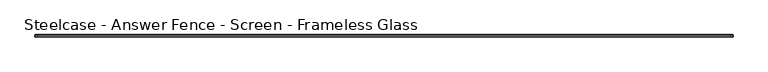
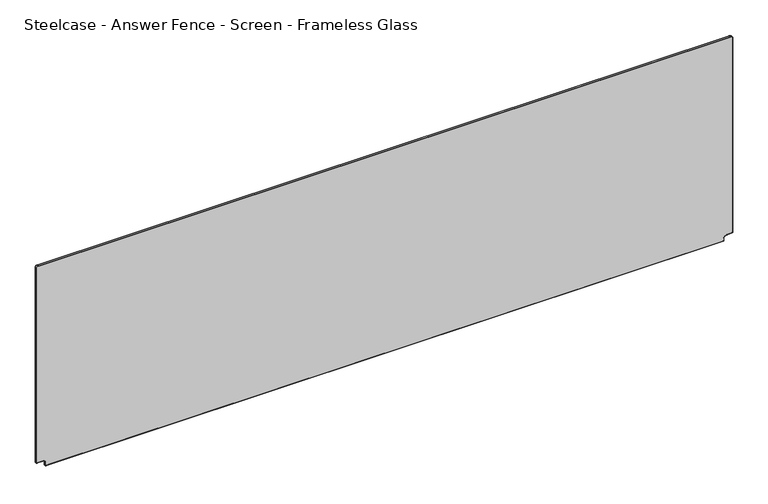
"""IFC4 building model written with IfcOpenShell, lengths in millimetres: furniture geometry, Steelcase - Answer Fence - Screen - Frameless Glass : 72W x 19.5H."""

from ifc_helpers import new_model, si_unit, point, frame, origin, place, context, project, spatial, polyline, circle_curve, ellipse_curve, trimmed, source, transform, mapped, element, save
from ifc_brep_helpers import plane_surface, cylinder_surface, revolved_surface, advanced_brep


def steelcase_answer_fence_screen_frameless_glass_b4fc2ed7(model_context):
    return source(origin(), model_context, "Body", "AdvancedBrep", [
        advanced_brep(
        [(-37.1058573, 0.0, 1236.4547231), (-32.5585153, 0.0, 1241.0020651), (1785.137377, 0.0, 1240.9797485), (1789.7058573, 0.0, 1236.4335847), (1789.6835407, 0.0, 696.7219419), (1773.9031504, 0.0, 696.7219419), (1765.5535698, 0.0, 688.3723612), (1765.5535698, 0.0, 681.6832625), (-12.9550716, 0.0, 681.6832625), (-12.9550716, 0.0, 688.4063736), (-21.2706399, 0.0, 696.7219419), (-37.0835407, 0.0, 696.7219419), (-32.5585153, -5.9942078, 1241.0018434), (-37.1056357, -5.9942078, 1236.4547231), (-37.1056357, -5.9942078, 696.7219419), (-21.2706399, -5.9942078, 696.6998469), (-12.9550716, -5.9942078, 688.4063736), (-12.9771666, -5.9942078, 681.6832625), (1765.5535698, -5.9942078, 681.6611675), (1765.5756647, -5.9942078, 688.3723612), (1773.9031504, -5.9942078, 696.7219419), (1789.6835407, -5.9942078, 696.6998469), (1789.7056357, -5.9942078, 1236.4335847), (1785.137377, -5.9942078, 1241.0018434), (-38.1106579, -1.0158976, 1236.4547231), (-32.5585153, -1.0158976, 1242.0068656), (-38.1106579, -4.9781981, 1236.4547231), (-32.5585153, -4.9781981, 1242.0068656), (-38.1106579, -1.0158976, 695.6948247), (-38.1106579, -4.9781981, 695.6948247), (-21.2706399, -1.0158976, 695.6948247), (-21.2706399, -4.9781981, 695.6948247), (-13.9821888, -1.0158976, 688.4063736), (-13.9821888, -4.9781981, 688.4063736), (-13.9821888, -1.0158976, 680.6561453), (-13.9821888, -4.9781981, 680.6561453), (1766.580687, -1.0158976, 680.6561453), (1766.580687, -4.9781981, 680.6561453), (1766.580687, -1.0158976, 688.3723612), (1766.580687, -4.9781981, 688.3723612), (1773.9031504, -1.0158976, 695.6948247), (1773.9031504, -4.9781981, 695.6948247), (1790.7106579, -1.0158976, 695.6948247), (1790.7106579, -4.9781981, 695.6948247), (1790.7106579, -1.0158976, 1236.4335847), (1790.7106579, -4.9781981, 1236.4335847), (1785.137377, -1.0158976, 1242.0068656), (1785.137377, -4.9781981, 1242.0068656)],
        [
            (0, 1, circle_curve(frame((-32.5585153, 0.0, 1236.4547231), z_axis=(0.0, 1.0, 0.0), x_axis=(0.0, 0.0, 1.0)), 4.547342)),
            (1, 2),
            (2, 3, circle_curve(frame((1785.137377, 0.0, 1236.4335847), z_axis=(0.0, 1.0, 0.0), x_axis=(1.0, 0.0, 0.0)), 4.5684803)),
            (3, 4),
            (4, 5),
            (5, 6, circle_curve(frame((1773.9031504, 0.0, 688.3723612), z_axis=(0.0, -1.0, 0.0), x_axis=(-1.0, 0.0, 0.0)), 8.3495806)),
            (6, 7),
            (7, 8),
            (8, 9),
            (9, 10, circle_curve(frame((-21.2706399, 0.0, 688.4063736), z_axis=(0.0, -1.0, 0.0), x_axis=(0.0, 0.0, 1.0)), 8.3155683)),
            (10, 11),
            (11, 0),
            (12, 13, circle_curve(frame((-32.5585153, -5.9942078, 1236.4547231), z_axis=(0.0, -1.0, 0.0), x_axis=(0.0, 0.0, 1.0)), 4.5471204)),
            (13, 14),
            (14, 15),
            (15, 16, circle_curve(frame((-21.2706399, -5.9942078, 688.4063736), z_axis=(0.0, 1.0, 0.0), x_axis=(0.0, 0.0, 1.0)), 8.3155683)),
            (16, 17),
            (17, 18),
            (18, 19),
            (19, 20, circle_curve(frame((1773.9031504, -5.9942078, 688.3723612), z_axis=(0.0, 1.0, 0.0), x_axis=(-1.0, 0.0, 0.0)), 8.3495806)),
            (20, 21),
            (21, 22),
            (22, 23, circle_curve(frame((1785.137377, -5.9942078, 1236.4335847), z_axis=(0.0, -1.0, 0.0), x_axis=(1.0, 0.0, 0.0)), 4.5682587)),
            (23, 12),
            (24, 25, circle_curve(frame((-32.5585153, -1.0158976, 1236.4547231), z_axis=(0.0, 1.0, 0.0), x_axis=(0.0, 0.0, 1.0)), 5.5521426)),
            (25, 1, circle_curve(frame((-32.5585153, -1.0158976, 1240.9909068), z_axis=(-1.0, 0.0, 0.0), x_axis=(0.0, 0.0, -1.0)), 1.0159589)),
            (0, 24, circle_curve(frame((-37.094699, -1.0158976, 1236.4547231), z_axis=(0.0, 0.0, 1.0), x_axis=(1.0, 0.0, 0.0)), 1.0159589)),
            (24, 26),
            (26, 27, circle_curve(frame((-32.5585153, -4.9781981, 1236.4547231), z_axis=(0.0, 1.0, 0.0), x_axis=(0.0, 0.0, 1.0)), 5.5521426)),
            (27, 25),
            (26, 13, circle_curve(frame((-37.0945882, -4.9781981, 1236.4547231), z_axis=(0.0, 0.0, 1.0), x_axis=(1.0, 0.0, 0.0)), 1.0160697)),
            (12, 27, circle_curve(frame((-32.5585153, -4.9781981, 1240.990796), z_axis=(-1.0, 0.0, 0.0), x_axis=(0.0, 0.0, -1.0)), 1.0160697)),
            (11, 28, ellipse_curve(frame((-37.094699, -1.0158976, 696.7107836), z_axis=(-0.7071067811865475, 0.0, 0.7071067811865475), x_axis=(0.7071067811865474, 0.0, 0.7071067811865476)), 1.4367828, 1.0159589)),
            (28, 24),
            (28, 29),
            (29, 26),
            (29, 14, ellipse_curve(frame((-37.0945882, -4.9781981, 696.7108944), z_axis=(-0.7071067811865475, 0.0, 0.7071067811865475), x_axis=(0.7071067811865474, 0.0, 0.7071067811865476)), 1.4369395, 1.0160697)),
            (10, 30, circle_curve(frame((-21.2706399, -1.0158976, 696.7107836), z_axis=(-1.0, 0.0, 0.0), x_axis=(0.0, 0.0, 1.0)), 1.0159589)),
            (30, 28),
            (30, 31),
            (31, 29),
            (31, 15, circle_curve(frame((-21.2706399, -4.9781981, 696.7108944), z_axis=(-1.0, 0.0, 0.0), x_axis=(0.0, 0.0, 1.0)), 1.0160697)),
            (9, 32, circle_curve(frame((-12.9662299, -1.0158976, 688.4063736), z_axis=(0.0, 0.0, 1.0), x_axis=(1.0, 0.0, 0.0)), 1.0159589)),
            (32, 30, circle_curve(frame((-21.2706399, -1.0158976, 688.4063736), z_axis=(0.0, -1.0, 0.0), x_axis=(0.0, 0.0, 1.0)), 7.2884511)),
            (32, 33),
            (33, 31, circle_curve(frame((-21.2706399, -4.9781981, 688.4063736), z_axis=(0.0, -1.0, 0.0), x_axis=(0.0, 0.0, 1.0)), 7.2884511)),
            (33, 16, circle_curve(frame((-12.9661191, -4.9781981, 688.4063736), z_axis=(0.0, 0.0, 1.0), x_axis=(1.0, 0.0, 0.0)), 1.0160697)),
            (8, 34, ellipse_curve(frame((-12.9662299, -1.0158976, 681.6721042), z_axis=(-0.7071067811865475, 0.0, 0.7071067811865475), x_axis=(0.7071067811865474, 0.0, 0.7071067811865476)), 1.4367828, 1.0159589)),
            (34, 32),
            (34, 35),
            (35, 33),
            (35, 17, ellipse_curve(frame((-12.9661191, -4.9781981, 681.672215), z_axis=(-0.7071067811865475, 0.0, 0.7071067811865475), x_axis=(0.7071067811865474, 0.0, 0.7071067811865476)), 1.4369395, 1.0160697)),
            (7, 36, ellipse_curve(frame((1765.5647281, -1.0158976, 681.6721042), z_axis=(-0.7071067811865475, 0.0, -0.7071067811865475), x_axis=(-0.7071067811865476, 0.0, 0.7071067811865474)), 1.4367828, 1.0159589)),
            (36, 34),
            (36, 37),
            (37, 35),
            (37, 18, ellipse_curve(frame((1765.5646173, -4.9781981, 681.672215), z_axis=(-0.7071067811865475, 0.0, -0.7071067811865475), x_axis=(-0.7071067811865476, 0.0, 0.7071067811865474)), 1.4369395, 1.0160697)),
            (6, 38, circle_curve(frame((1765.5647281, -1.0158976, 688.3723612), z_axis=(0.0, 0.0, -1.0), x_axis=(-1.0, 0.0, 0.0)), 1.0159589)),
            (38, 36),
            (38, 39),
            (39, 37),
            (39, 19, circle_curve(frame((1765.5646173, -4.9781981, 688.3723612), z_axis=(0.0, 0.0, -1.0), x_axis=(-1.0, 0.0, 0.0)), 1.0160697)),
            (5, 40, circle_curve(frame((1773.9031504, -1.0158976, 696.7107836), z_axis=(-1.0, 0.0, 0.0), x_axis=(0.0, 0.0, 1.0)), 1.0159589)),
            (40, 38, circle_curve(frame((1773.9031504, -1.0158976, 688.3723612), z_axis=(0.0, -1.0, 0.0), x_axis=(-1.0, 0.0, 0.0)), 7.3224635)),
            (40, 41),
            (41, 39, circle_curve(frame((1773.9031504, -4.9781981, 688.3723612), z_axis=(0.0, -1.0, 0.0), x_axis=(-1.0, 0.0, 0.0)), 7.3224635)),
            (41, 20, circle_curve(frame((1773.9031504, -4.9781981, 696.7108944), z_axis=(-1.0, 0.0, 0.0), x_axis=(0.0, 0.0, 1.0)), 1.0160697)),
            (4, 42, ellipse_curve(frame((1789.694699, -1.0158976, 696.7107836), z_axis=(-0.7071067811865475, 0.0, -0.7071067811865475), x_axis=(-0.7071067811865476, 0.0, 0.7071067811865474)), 1.4367828, 1.0159589)),
            (42, 40),
            (42, 43),
            (43, 41),
            (43, 21, ellipse_curve(frame((1789.6945882, -4.9781981, 696.7108944), z_axis=(-0.7071067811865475, 0.0, -0.7071067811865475), x_axis=(-0.7071067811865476, 0.0, 0.7071067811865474)), 1.4369395, 1.0160697)),
            (3, 44, circle_curve(frame((1789.694699, -1.0158976, 1236.4335847), z_axis=(0.0, 0.0, -1.0), x_axis=(-1.0, 0.0, 0.0)), 1.0159589)),
            (44, 42),
            (44, 45),
            (45, 43),
            (45, 22, circle_curve(frame((1789.6945882, -4.9781981, 1236.4335847), z_axis=(0.0, 0.0, -1.0), x_axis=(-1.0, 0.0, 0.0)), 1.0160697)),
            (2, 46, circle_curve(frame((1785.137377, -1.0158976, 1240.9909068), z_axis=(1.0, 0.0, 0.0), x_axis=(0.0, 0.0, -1.0)), 1.0159589)),
            (46, 44, circle_curve(frame((1785.137377, -1.0158976, 1236.4335847), z_axis=(0.0, 1.0, 0.0), x_axis=(1.0, 0.0, 0.0)), 5.5732809)),
            (46, 47),
            (47, 45, circle_curve(frame((1785.137377, -4.9781981, 1236.4335847), z_axis=(0.0, 1.0, 0.0), x_axis=(1.0, 0.0, 0.0)), 5.5732809)),
            (47, 23, circle_curve(frame((1785.137377, -4.9781981, 1240.990796), z_axis=(1.0, 0.0, 0.0), x_axis=(0.0, 0.0, -1.0)), 1.0160697)),
            (25, 46),
            (27, 47),
        ],
        [
            plane_surface(frame((-32.5585153, 0.0, 1240.9797485), z_axis=(0.0, 1.0, 0.0), x_axis=(1.0, 0.0, 0.0))),
            plane_surface(frame((-32.5585153, -5.9942078, 1240.9797485), z_axis=(0.0, -1.0, 0.0), x_axis=(-1.0, 0.0, 0.0))),
            revolved_surface(trimmed(ellipse_curve(frame((-32.5585153, -1.0158976, 1240.9909068), z_axis=(1.0, 0.0, 0.0), x_axis=(0.0, 0.0, -1.0)), 1.0159589, 1.0159589), [point((-32.5585153, 0.0, 1240.9797485))], [point((-32.5585153, -1.0158976, 1242.0068656))], True, "CARTESIAN"), (-32.5585153, -5.9942078, 1236.4547231), (0.0, -1.0, 0.0)),
            cylinder_surface(frame((-32.5585153, -5.9942078, 1236.4547231), z_axis=(0.0, -1.0, 0.0), x_axis=(0.0, 0.0, 1.0)), 5.5521426),
            revolved_surface(trimmed(ellipse_curve(frame((-32.5585153, -4.9781981, 1240.990796), z_axis=(1.0, 0.0, 0.0), x_axis=(0.0, 0.0, -1.0)), 1.0160697, 1.0160697), [point((-32.5585153, -4.9781981, 1242.0068656))], [point((-32.5585153, -5.9942078, 1240.9797485))], True, "CARTESIAN"), (-32.5585153, -5.9942078, 1236.4547231), (0.0, -1.0, 0.0)),
            cylinder_surface(frame((-37.094699, -1.0158976, 1236.4547231), z_axis=(0.0, 0.0, 1.0), x_axis=(1.0, 0.0, 0.0)), 1.0159589),
            plane_surface(frame((-38.1106579, -1.0158976, 1236.4547231), z_axis=(-1.0, 0.0, 0.0), x_axis=(0.0, 0.0, -1.0))),
            cylinder_surface(frame((-37.0945882, -4.9781981, 1236.4547231), z_axis=(0.0, 0.0, 1.0), x_axis=(1.0, 0.0, 0.0)), 1.0160697),
            cylinder_surface(frame((-37.0835407, -1.0158976, 696.7107836), z_axis=(-1.0, 0.0, 0.0), x_axis=(0.0, 0.0, 1.0)), 1.0159589),
            plane_surface(frame((-38.1106579, -1.0158976, 695.6948247), z_axis=(0.0, 0.0, -1.0), x_axis=(1.0, 0.0, 0.0))),
            cylinder_surface(frame((-37.0835407, -4.9781981, 696.7108944), z_axis=(-1.0, 0.0, 0.0), x_axis=(0.0, 0.0, 1.0)), 1.0160697),
            revolved_surface(trimmed(ellipse_curve(frame((-21.2706399, -1.0158976, 696.7107836), z_axis=(-1.0, 0.0, 0.0), x_axis=(0.0, 0.0, 1.0)), 1.0159589, 1.0159589), [point((-21.2706399, 0.0, 696.7219419))], [point((-21.2706399, -1.0158976, 695.6948247))], True, "CARTESIAN"), (-21.2706399, -5.9942078, 688.4063736), (0.0, 1.0, 0.0)),
            revolved_surface(polyline([(-21.2706399, -1.0158975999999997, 695.6948247), (-21.2706399, -4.9781981, 695.6948247)]), (-21.2706399, -5.9942078, 688.4063736), (0.0, 1.0, 0.0)),
            revolved_surface(trimmed(ellipse_curve(frame((-21.2706399, -4.9781981, 696.7108944), z_axis=(-1.0, 0.0, 0.0), x_axis=(0.0, 0.0, 1.0)), 1.0160697, 1.0160697), [point((-21.2706399, -4.9781981, 695.6948247))], [point((-21.2706399, -5.9942078, 696.7219419))], True, "CARTESIAN"), (-21.2706399, -5.9942078, 688.4063736), (0.0, 1.0, 0.0)),
            cylinder_surface(frame((-12.9662299, -1.0158976, 688.4063736), z_axis=(0.0, 0.0, 1.0), x_axis=(1.0, 0.0, 0.0)), 1.0159589),
            plane_surface(frame((-13.9821888, -1.0158976, 688.4063736), z_axis=(-1.0, 0.0, 0.0), x_axis=(0.0, 0.0, -1.0))),
            cylinder_surface(frame((-12.9661191, -4.9781981, 688.4063736), z_axis=(0.0, 0.0, 1.0), x_axis=(1.0, 0.0, 0.0)), 1.0160697),
            cylinder_surface(frame((-12.9550716, -1.0158976, 681.6721042), z_axis=(-1.0, 0.0, 0.0), x_axis=(0.0, 0.0, 1.0)), 1.0159589),
            plane_surface(frame((-13.9821888, -1.0158976, 680.6561453), z_axis=(0.0, 0.0, -1.0), x_axis=(1.0, 0.0, 0.0))),
            cylinder_surface(frame((-12.9550716, -4.9781981, 681.672215), z_axis=(-1.0, 0.0, 0.0), x_axis=(0.0, 0.0, 1.0)), 1.0160697),
            cylinder_surface(frame((1765.5647281, -1.0158976, 681.6832625), z_axis=(0.0, 0.0, -1.0), x_axis=(-1.0, 0.0, 0.0)), 1.0159589),
            plane_surface(frame((1766.580687, -1.0158976, 680.6561453), z_axis=(1.0, 0.0, 0.0), x_axis=(0.0, 0.0, 1.0))),
            cylinder_surface(frame((1765.5646173, -4.9781981, 681.6832625), z_axis=(0.0, 0.0, -1.0), x_axis=(-1.0, 0.0, 0.0)), 1.0160697),
            revolved_surface(trimmed(ellipse_curve(frame((1765.5647281, -1.0158976, 688.3723612), z_axis=(0.0, 0.0, -1.0), x_axis=(-1.0, 0.0, 0.0)), 1.0159589, 1.0159589), [point((1765.5535698, 0.0, 688.3723612))], [point((1766.580687, -1.0158976, 688.3723612))], True, "CARTESIAN"), (1773.9031504, -5.9942078, 688.3723612), (0.0, 1.0, 0.0)),
            revolved_surface(polyline([(1766.5806869, -1.0158975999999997, 688.3723612), (1766.5806869, -4.9781981, 688.3723612)]), (1773.9031504, -5.9942078, 688.3723612), (0.0, 1.0, 0.0)),
            revolved_surface(trimmed(ellipse_curve(frame((1765.5646173, -4.9781981, 688.3723612), z_axis=(0.0, 0.0, -1.0), x_axis=(-1.0, 0.0, 0.0)), 1.0160697, 1.0160697), [point((1766.580687, -4.9781981, 688.3723612))], [point((1765.5535698, -5.9942078, 688.3723612))], True, "CARTESIAN"), (1773.9031504, -5.9942078, 688.3723612), (0.0, 1.0, 0.0)),
            cylinder_surface(frame((1773.9031504, -1.0158976, 696.7107836), z_axis=(-1.0, 0.0, 0.0), x_axis=(0.0, 0.0, 1.0)), 1.0159589),
            plane_surface(frame((1773.9031504, -1.0158976, 695.6948247), z_axis=(0.0, 0.0, -1.0), x_axis=(1.0, 0.0, 0.0))),
            cylinder_surface(frame((1773.9031504, -4.9781981, 696.7108944), z_axis=(-1.0, 0.0, 0.0), x_axis=(0.0, 0.0, 1.0)), 1.0160697),
            cylinder_surface(frame((1789.694699, -1.0158976, 696.7219419), z_axis=(0.0, 0.0, -1.0), x_axis=(-1.0, 0.0, 0.0)), 1.0159589),
            plane_surface(frame((1790.7106579, -1.0158976, 695.6948247), z_axis=(1.0, 0.0, 0.0), x_axis=(0.0, 0.0, 1.0))),
            cylinder_surface(frame((1789.6945882, -4.9781981, 696.7219419), z_axis=(0.0, 0.0, -1.0), x_axis=(-1.0, 0.0, 0.0)), 1.0160697),
            revolved_surface(trimmed(ellipse_curve(frame((1789.694699, -1.0158976, 1236.4335847), z_axis=(0.0, 0.0, -1.0), x_axis=(-1.0, 0.0, 0.0)), 1.0159589, 1.0159589), [point((1789.6835407, 0.0, 1236.4335847))], [point((1790.7106579, -1.0158976, 1236.4335847))], True, "CARTESIAN"), (1785.137377, -5.9942078, 1236.4335847), (0.0, -1.0, 0.0)),
            cylinder_surface(frame((1785.137377, -5.9942078, 1236.4335847), z_axis=(0.0, -1.0, 0.0), x_axis=(1.0, 0.0, 0.0)), 5.5732809),
            revolved_surface(trimmed(ellipse_curve(frame((1789.6945882, -4.9781981, 1236.4335847), z_axis=(0.0, 0.0, -1.0), x_axis=(-1.0, 0.0, 0.0)), 1.0160697, 1.0160697), [point((1790.7106579, -4.9781981, 1236.4335847))], [point((1789.6835407, -5.9942078, 1236.4335847))], True, "CARTESIAN"), (1785.137377, -5.9942078, 1236.4335847), (0.0, -1.0, 0.0)),
            cylinder_surface(frame((1785.137377, -1.0158976, 1240.9909068), z_axis=(1.0, 0.0, 0.0), x_axis=(0.0, 0.0, -1.0)), 1.0159589),
            plane_surface(frame((1785.137377, -1.0158976, 1242.0068656), z_axis=(0.0, 0.0, 1.0), x_axis=(-1.0, 0.0, 0.0))),
            cylinder_surface(frame((1785.137377, -4.9781981, 1240.990796), z_axis=(1.0, 0.0, 0.0), x_axis=(0.0, 0.0, -1.0)), 1.0160697),
        ],
        [
            (0, [[1, 2, 3, 4, 5, 6, 7, 8, 9, 10, 11, 12]]),
            (1, [[13, 14, 15, 16, 17, 18, 19, 20, 21, 22, 23, 24]]),
            (2, [[25, 26, -1, 27]]),
            (3, [[-25, 28, 29, 30]]),
            (4, [[-29, 31, -13, 32]]),
            (5, [[-27, -12, 33, 34]]),
            (6, [[-28, -34, 35, 36]]),
            (7, [[-31, -36, 37, -14]]),
            (8, [[-33, -11, 38, 39]]),
            (9, [[-35, -39, 40, 41]]),
            (10, [[-37, -41, 42, -15]]),
            (11, [[-38, -10, 43, 44]]),
            (12, [[-40, -44, 45, 46]]),
            (13, [[-42, -46, 47, -16]]),
            (14, [[-43, -9, 48, 49]]),
            (15, [[-45, -49, 50, 51]]),
            (16, [[-47, -51, 52, -17]]),
            (17, [[-48, -8, 53, 54]]),
            (18, [[-50, -54, 55, 56]]),
            (19, [[-52, -56, 57, -18]]),
            (20, [[-53, -7, 58, 59]]),
            (21, [[-55, -59, 60, 61]]),
            (22, [[-57, -61, 62, -19]]),
            (23, [[-58, -6, 63, 64]]),
            (24, [[-60, -64, 65, 66]]),
            (25, [[-62, -66, 67, -20]]),
            (26, [[-63, -5, 68, 69]]),
            (27, [[-65, -69, 70, 71]]),
            (28, [[-67, -71, 72, -21]]),
            (29, [[-68, -4, 73, 74]]),
            (30, [[-70, -74, 75, 76]]),
            (31, [[-72, -76, 77, -22]]),
            (32, [[-73, -3, 78, 79]]),
            (33, [[-75, -79, 80, 81]]),
            (34, [[-77, -81, 82, -23]]),
            (35, [[-26, 83, -78, -2]]),
            (36, [[-30, 84, -80, -83]]),
            (37, [[-32, -24, -82, -84]]),
        ],
    ),
    ])


if __name__ == "__main__":
    model = new_model("IFC4")
    model_context = context("Model", 3, world=origin())
    ifc_project = project(units=[si_unit("LENGTHUNIT", "METRE", prefix="MILLI")], contexts=[model_context])
    site = spatial("IfcSite", under=ifc_project)
    building = spatial("IfcBuilding", under=site)
    placement = place(None, origin())
    steelcase_answer_fence_screen_frameless_glass_shape = steelcase_answer_fence_screen_frameless_glass_b4fc2ed7(model_context)
    element("IfcFurniture", 1, ObjectType="Steelcase - Answer Fence - Screen - Frameless Glass : 72W x 19.5H", at=placement, inside=building, context=model_context, shape_type="MappedRepresentation", body=[
        mapped(steelcase_answer_fence_screen_frameless_glass_shape, transform((0.0, 0.0, 0.0), x_axis=(1.0, 0.0, 0.0), y_axis=(0.0, 1.0, 0.0), z_axis=(0.0, 0.0, 1.0))),
    ])
    save(model, "model.ifc")
